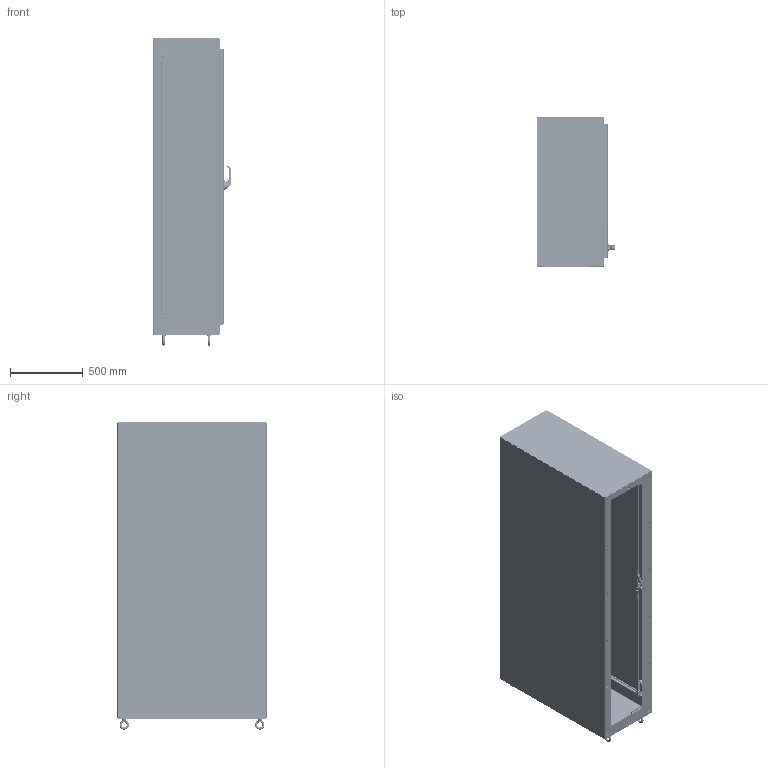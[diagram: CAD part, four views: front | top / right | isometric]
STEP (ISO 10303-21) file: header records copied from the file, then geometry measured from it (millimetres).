
FILE_DESCRIPTION((''),'2;1');
FILE_NAME('MODEL-461_ASM','2026-04-20T10:13:58',('richards'),('SAGINAW CONTROL & ENGINEERING'),'CREO PARAMETRIC BY PTC INC, 2021284','CREO PARAMETRIC BY PTC INC, 2021284','');
FILE_SCHEMA(('AUTOMOTIVE_DESIGN { 1 0 10303 214 1 1 1 1 }'));
Length unit declared in the file: inch
Products named in the file (80): MODEL-461-L-SD; MODEL-461-TP; MODEL-461-R-SD; MODEL-461-BTM; MODEL-461-DR; 100837; 100957_SCREW_MTG; 100957_PADLOCK_CATCH; 100957_SCREW_LARGE; 100957_INSERT_SHAFT; 100957_INSERT_PH; 100957_GASKET; 100957_O-RING; 100957_BASE; 100957_SPRING; 100957_HANDLE; 100957_CAM_SHAFT; 100957_HANDLE_ASM; 100957_CAM_ADAPTER; 100957_EARTH_NUT; 100957_FLANGE_NUT; 100957_CAM_NUT; 100957_ASM; 102237; 100030; 102237_ASM; MODEL-461-ROD-UPR; 128146; 128145; 128144; 102482; MODEL-461-ROD-UPR_ASM; 128143; 100882; 112504; MODEL-461-ROD-LWR; MODEL-461-ROD-LWR_ASM; MODEL-461-PR-GSKT; 128258; 128258_ASM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
Assembly tree (149 placements, depth 5):
  MODEL-461_ASM
    MODEL-461-L-SD
    MODEL-461-TP
    MODEL-461-R-SD
    MODEL-461-BTM
    MODEL-461-DOOR-ASSY_ASM
      MODEL-461-DR
      100837  x3
      100957_ASM
        100957_SCREW_MTG
        100957_PADLOCK_CATCH
        100957_SCREW_LARGE  x2
        100957_INSERT_SHAFT
        100957_INSERT_PH
        100957_GASKET
        100957_O-RING
        100957_BASE
        100957_SPRING
        100957_HANDLE_ASM
          100957_HANDLE
          100957_CAM_SHAFT
        100957_CAM_ADAPTER
        100957_EARTH_NUT
        100957_FLANGE_NUT
        100957_CAM_NUT
      102237_ASM
        102237
        100030  x2
      MODEL-461-ROD-UPR_ASM
        MODEL-461-ROD-UPR
        128146
        128145
        128144
        102482  x2
      128143  x2
      100882  x10
      112504  x2
      MODEL-461-ROD-LWR_ASM
        MODEL-461-ROD-LWR
        128146
        128145
        128144
        102482  x2
      MODEL-461-PR-GSKT
      128258_ASM  x4
        128258
      126395  x4
      102483  x4
      101383_ASM  x4
        101383
        101383-STUD
      101221  x4
      125597
    MODEL-461-BCK
    100837  x6
    101653  x8
    102245  x2
    121454
    MODEL-461-BB  x3
    130514  x4
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Bounding box: 535.27 x 1022.35 x 2106.8 mm (x, y, z)
Volume: 25054045.5 mm3; surface area: 18001204.9 mm2
Topology: 154 solids, 154 shells, 15755 faces, 39831 edges, 24470 vertices
Faces by surface type: plane 5232, cylinder 4406, bspline 3295, torus 1378, cone 667, sphere 482, extrusion 295
Entity records: 547909 total; most frequent: CARTESIAN_POINT 262680, ORIENTED_EDGE 44452, DIRECTION 40629, PRESENTATION_STYLE_ASSIGNMENT 22295, STYLED_ITEM 22265, EDGE_CURVE 22226, CURVE_STYLE 22178, AXIS2_PLACEMENT_3D 15082
